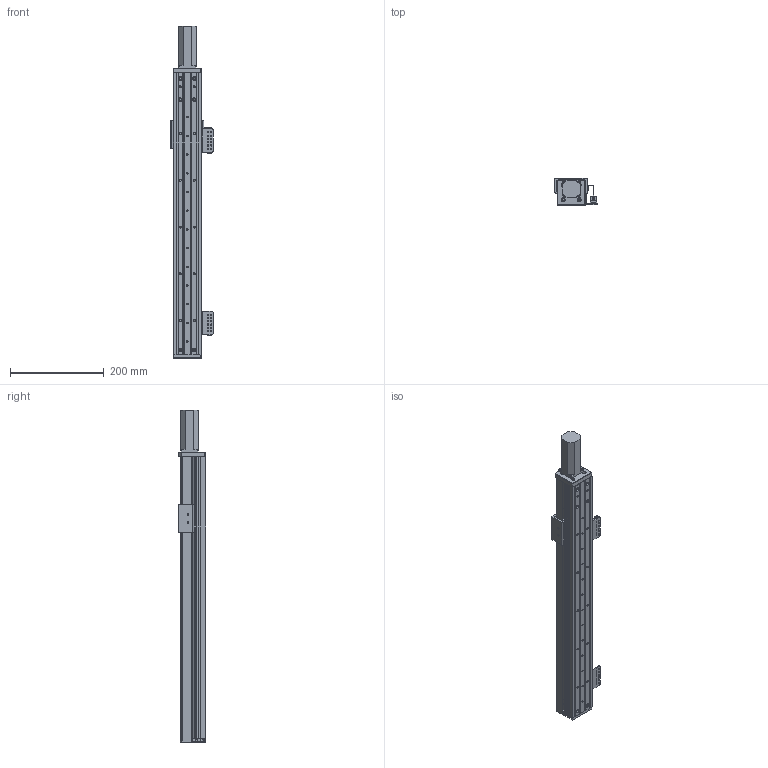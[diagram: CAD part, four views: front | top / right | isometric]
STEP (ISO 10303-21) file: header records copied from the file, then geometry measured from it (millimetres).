
FILE_DESCRIPTION (( 'STEP AP203' ), '1' );
FILE_NAME ('RY60FB-L1210-300-MK.SLDASM_400.step', '2021-02-22T08:25:33', ( '盈信电脑' ), ( '东莞市道滘镇水果街19号' ), 'SwSTEP 2.0', 'SolidWorks 2012', '' );
FILE_SCHEMA (( 'CONFIG_CONTROL_DESIGN' ));
Length unit declared in the file: millimetre
Products named in the file (14): RY60FB-L1210-300-MK.SLDASM_400; RY60FB-674嫖萇耀輸; 覜茼ん674; RY80俋离覜茼え; RY60FB-感应器674光电安装座; RY60FB前盖板100(M3); 侂狟100W; RY60FB綴裔啣; RY60FB-300-奻裔-MK_400; 滅袉蝶18-10; 滅袉蝶18-20; RY60FB-臏賑輸; RY60FB-300-菁釱-MK_400
Assembly tree (18 placements, depth 3):
  RY60FB-L1210-300-MK.SLDASM_400
    RY60FB-300-菁釱-MK_400
    RY60FB-臏賑輸
    滅袉蝶18-20  x2
    滅袉蝶18-10  x2
    RY60FB-300-奻裔-MK_400
    RY60FB前盖板100(M3)
    侂狟100W
    RY60FB綴裔啣
    RY60FB-674嫖萇耀輸
      RY60FB-感应器674光电安装座
      覜茼ん674  x2
    RY80俋离覜茼え
    RY60FB-674嫖萇耀輸
      RY60FB-感应器674光电安装座
      覜茼ん674
Bounding box: 90 x 58.5 x 710 mm (x, y, z)
Volume: 806646.7 mm3; surface area: 431485.7 mm2
Topology: 16 solids, 16 shells, 963 faces, 2656 edges, 1715 vertices
Faces by surface type: plane 474, cylinder 422, cone 67
Entity records: 27064 total; most frequent: CARTESIAN_POINT 5069, DIRECTION 4318, ORIENTED_EDGE 4212, EDGE_CURVE 2106, AXIS2_PLACEMENT_3D 1524, VERTEX_POINT 1371, VECTOR 1270, LINE 1270
